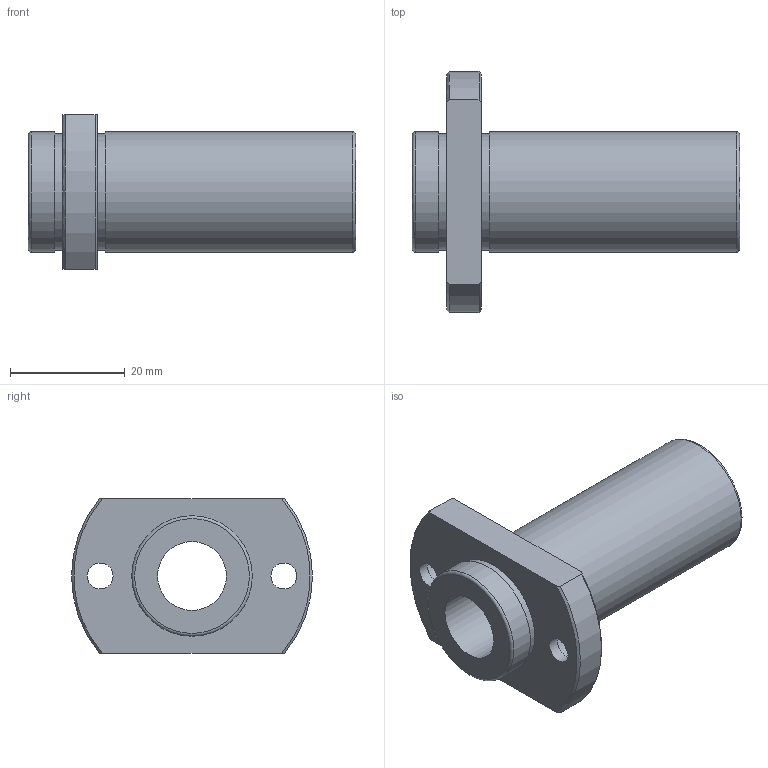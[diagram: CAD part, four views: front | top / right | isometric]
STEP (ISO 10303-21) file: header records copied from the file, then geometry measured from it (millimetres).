
FILE_DESCRIPTION(('STEP AP203'),'1');
FILE_NAME('//192.168.1.1/share/s-4 技術開発/s-4-4_CAD/s-4-4-3_見直し済み/002 修正済み/NFIO-VL(済)/NFIO-VL_TOP/NFIO-12VLUU.step','2022-03-08T01:26:43',(' '),(' '),'Spatial InterOp 3D',' ',' ');
FILE_SCHEMA(('CONFIG_CONTROL_DESIGN'));
Length unit declared in the file: millimetre
Products named in the file (1): 1
Bounding box: 57 x 42 x 27 mm (x, y, z)
Volume: 17016 mm3; surface area: 8336.7 mm2
Topology: 1 solids, 1 shells, 27 faces, 59 edges, 40 vertices
Faces by surface type: cylinder 11, plane 10, cone 4, torus 2
Full cylindrical faces by diameter (mm): 4.5 x2, 7.5 x2, 12 x1, 20.3 x2, 21 x2
Entity records: 730 total; most frequent: CARTESIAN_POINT 132, DIRECTION 120, ORIENTED_EDGE 88, AXIS2_PLACEMENT_3D 56, EDGE_LOOP 50, EDGE_CURVE 44, FACE_OUTER_BOUND 38, VERTEX_POINT 36
